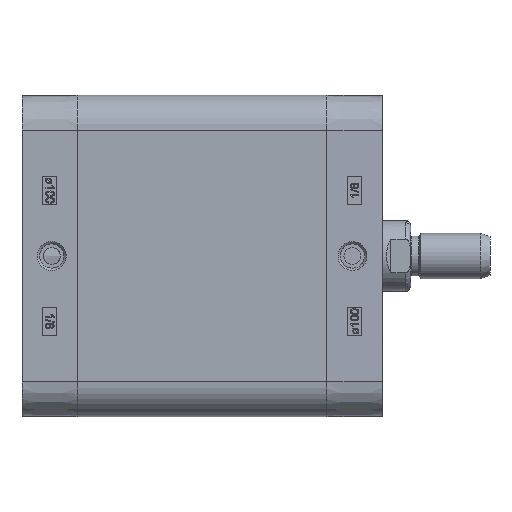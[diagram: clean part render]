
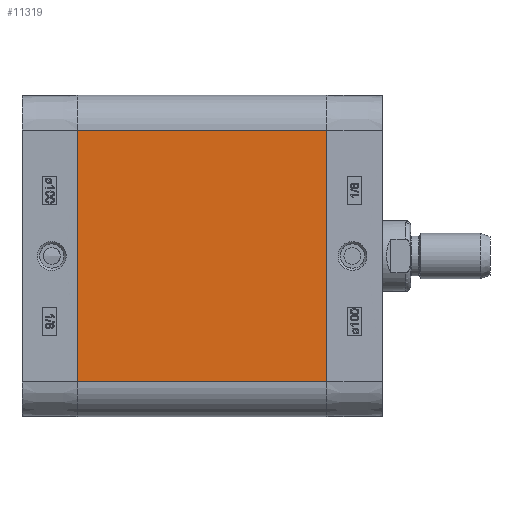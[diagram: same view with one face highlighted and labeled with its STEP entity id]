
A CAD part, left-side view. The second image highlights one B-rep face of the part: STEP entity #11319.
In plain terms, the highlighted planar face has unit normal (-1, 0, 0).
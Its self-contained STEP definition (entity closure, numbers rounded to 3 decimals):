
#5684=CARTESIAN_POINT('',(-56.65,-88.0,44.4));
#5685=VERTEX_POINT('',#5684);
#5692=CARTESIAN_POINT('',(-56.65,-88.0,-44.4));
#5693=VERTEX_POINT('',#5692);
#5694=CARTESIAN_POINT('',(-56.65,-88.0,-44.4));
#5695=DIRECTION('',(0.0,0.0,1.0));
#5696=VECTOR('',#5695,88.8);
#5697=LINE('',#5694,#5696);
#5698=EDGE_CURVE('',#5693,#5685,#5697,.T.);
#11277=CARTESIAN_POINT('',(-56.65,0.0,-44.4));
#11278=VERTEX_POINT('',#11277);
#11279=CARTESIAN_POINT('',(-56.65,0.0,-44.4));
#11280=DIRECTION('',(0.0,-1.0,0.0));
#11281=VECTOR('',#11280,88.0);
#11282=LINE('',#11279,#11281);
#11283=EDGE_CURVE('',#11278,#5693,#11282,.T.);
#11296=CARTESIAN_POINT('',(-56.65,0.0,-44.4));
#11297=DIRECTION('',(-1.0,0.0,0.0));
#11298=DIRECTION('',(0.0,0.0,1.0));
#11299=AXIS2_PLACEMENT_3D('',#11296,#11297,#11298);
#11300=PLANE('',#11299);
#11301=ORIENTED_EDGE('',*,*,#5698,.T.);
#11302=CARTESIAN_POINT('',(-56.65,0.0,44.4));
#11303=VERTEX_POINT('',#11302);
#11304=CARTESIAN_POINT('',(-56.65,0.0,44.4));
#11305=DIRECTION('',(0.0,-1.0,0.0));
#11306=VECTOR('',#11305,88.0);
#11307=LINE('',#11304,#11306);
#11308=EDGE_CURVE('',#11303,#5685,#11307,.T.);
#11309=ORIENTED_EDGE('',*,*,#11308,.F.);
#11310=CARTESIAN_POINT('',(-56.65,0.0,-44.4));
#11311=DIRECTION('',(0.0,0.0,1.0));
#11312=VECTOR('',#11311,88.8);
#11313=LINE('',#11310,#11312);
#11314=EDGE_CURVE('',#11278,#11303,#11313,.T.);
#11315=ORIENTED_EDGE('',*,*,#11314,.F.);
#11316=ORIENTED_EDGE('',*,*,#11283,.T.);
#11317=EDGE_LOOP('',(#11301,#11309,#11315,#11316));
#11318=FACE_OUTER_BOUND('',#11317,.T.);
#11319=ADVANCED_FACE('',(#11318),#11300,.T.);
